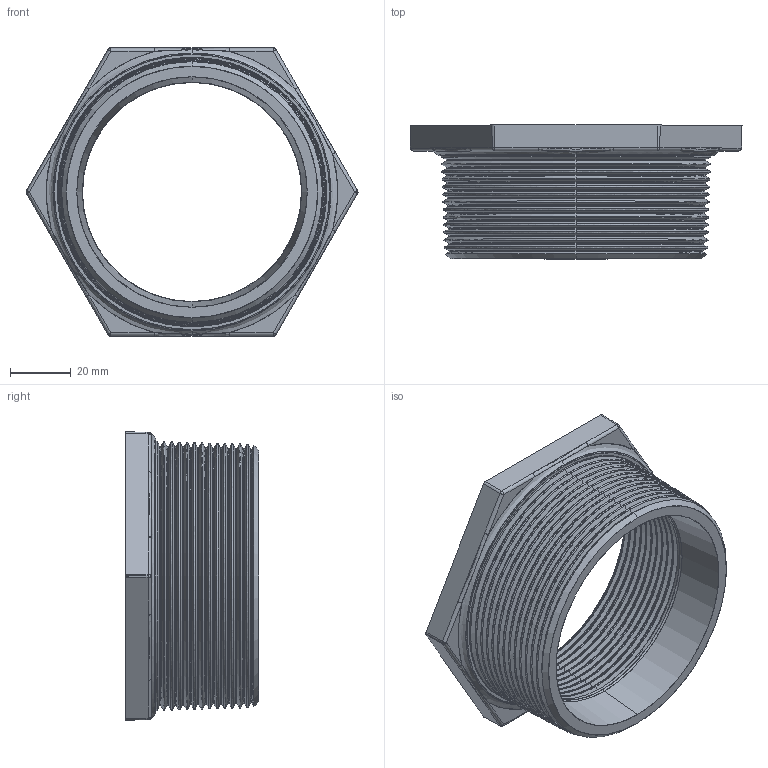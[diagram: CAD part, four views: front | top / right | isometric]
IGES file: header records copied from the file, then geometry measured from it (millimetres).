
Start section: SolidWorks IGES file using analytic representation for surfaces
Global section: file name: C:\Users\Joel Rosa\Desktop\Tubulação\12-01-OK\12-01-056.IGS; native system: SolidWorks 2011; preprocessor: SolidWorks 2011; author: Joel Rosa; date: 121203.200800; units: millimetre
Bounding box: 109.39 x 44 x 95 mm (x, y, z)
Surface area: 39283.9 mm2 (no closed solid volume)
Topology: 0 solids, 0 shells, 452 faces, 3656 edges, 3656 vertices
Faces by surface type: bspline 316, revolution 136
